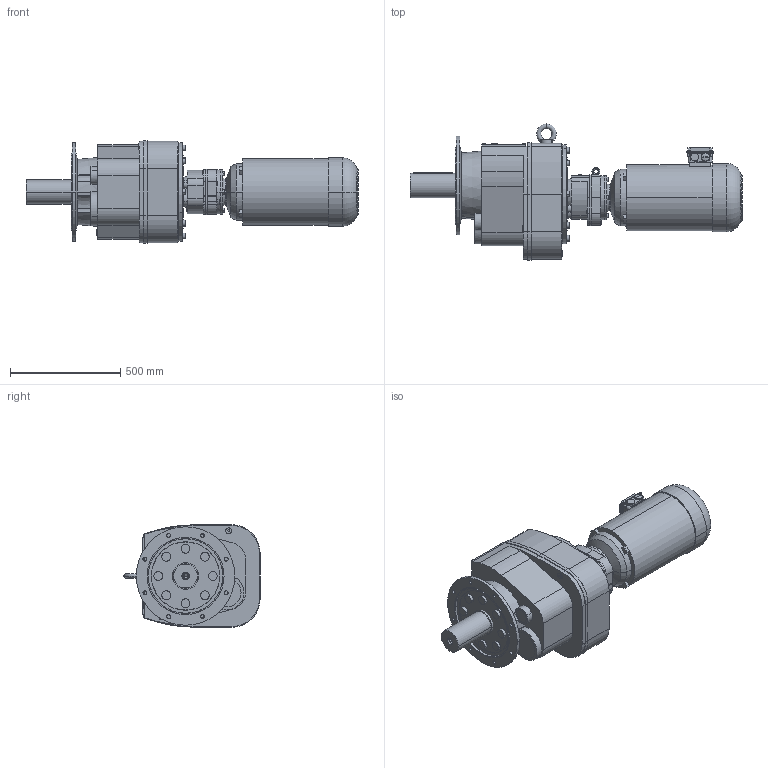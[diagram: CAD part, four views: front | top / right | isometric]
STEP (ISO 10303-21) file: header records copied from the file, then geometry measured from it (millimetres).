
FILE_DESCRIPTION(('STEP AP214'),'1');
FILE_NAME('STEP-File.stp','2018-01-01T00:00:00',(' '),('KEB'),' ','KEB-DRIVE',' ');
FILE_SCHEMA(('AUTOMOTIVE_DESIGN { 1 0 10303 214 1 1 1 1 }'));
Length unit declared in the file: millimetre
Products named in the file (12): g9b; w9_we_110x210; c9_450; fp4-c9; g4b; cs4; dm160_kkn; kk10; PLUG_M32; SCREW-PLUG_M32; ndm160; G93G42C DM160MB4§CAD13
Assembly tree (11 placements, depth 2):
  G93G42C DM160MB4§CAD13
    g9b
    w9_we_110x210
    c9_450
    fp4-c9
    g4b
    cs4
    dm160_kkn
    kk10
    PLUG_M32
    SCREW-PLUG_M32
    ndm160
Bounding box: 1508.99 x 618.5 x 466 mm (x, y, z)
Volume: 135601399.1 mm3; surface area: 3294986.5 mm2
Topology: 11 solids, 11 shells, 553 faces, 1345 edges, 887 vertices
Faces by surface type: plane 281, cylinder 195, cone 44, torus 23, bspline 8, revolution 2
Entity records: 24186 total; most frequent: CARTESIAN_POINT 11397, ORIENTED_EDGE 2686, DIRECTION 2384, EDGE_CURVE 1343, VERTEX_POINT 887, AXIS2_PLACEMENT_3D 839, VECTOR 704, LINE 704
